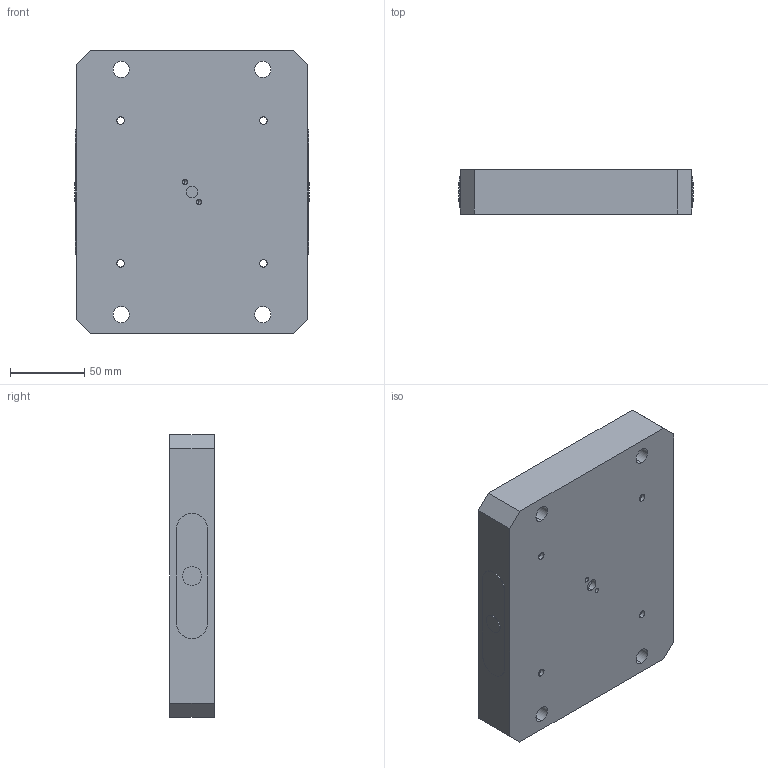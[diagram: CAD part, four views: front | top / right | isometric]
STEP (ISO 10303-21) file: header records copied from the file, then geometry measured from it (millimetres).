
FILE_DESCRIPTION (( 'STEP AP214' ), '1' );
FILE_NAME ('D_RL96A-68.STEP', '2020-06-01T21:50:01', ( '' ), ( '' ), 'SwSTEP 2.0', 'SolidWorks 2018', '' );
FILE_SCHEMA (( 'AUTOMOTIVE_DESIGN' ));
Length unit declared in the file: millimetre
Products named in the file (1): D_RL96A-68
Bounding box: 158 x 30 x 190 mm (x, y, z)
Volume: 727404.9 mm3; surface area: 118565.1 mm2
Topology: 1 solids, 1 shells, 179 faces, 444 edges, 290 vertices
Faces by surface type: cylinder 110, plane 61, cone 8
Entity records: 6456 total; most frequent: CARTESIAN_POINT 1390, DIRECTION 988, ORIENTED_EDGE 872, EDGE_CURVE 436, AXIS2_PLACEMENT_3D 402, VERTEX_POINT 290, EDGE_LOOP 234, CIRCLE 222
